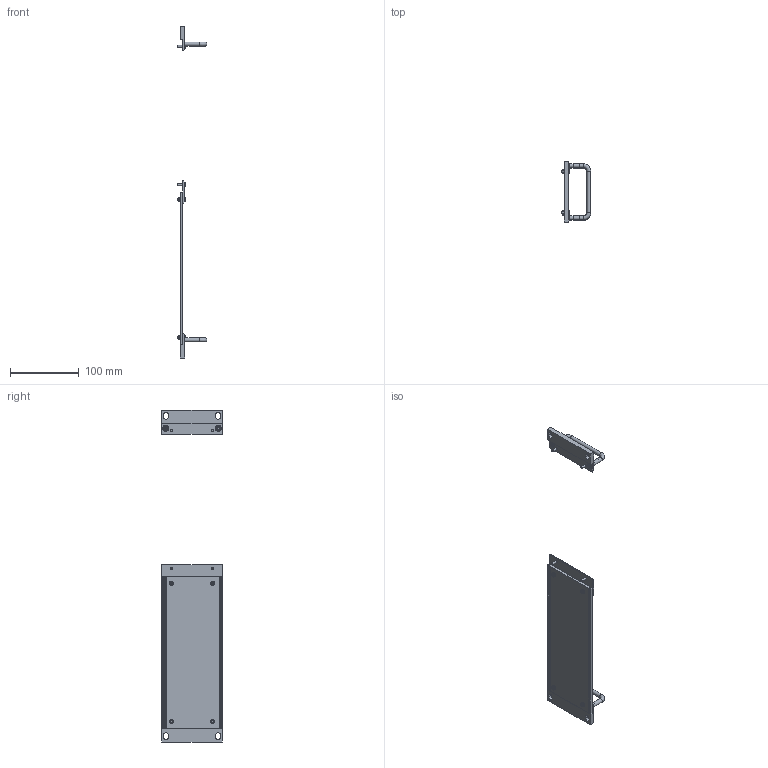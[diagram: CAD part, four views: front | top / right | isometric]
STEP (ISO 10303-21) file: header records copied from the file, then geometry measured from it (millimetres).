
FILE_DESCRIPTION(/* description */ ('DWG2080 connection plate front'),/* implementation_level */ '2;1');
FILE_NAME(/* name */ 'D:\SM800\options\RA19-SM800\RA19-1SM800-parts.stp',/* time_stamp */ '2014-11-20T15:38:21+01:00',/* author */ ('Simon'),/* organization */ ('Delta Elektronika'),/* preprocessor_version */ 'ST-DEVELOPER v15.6',/* originating_system */ 'Autodesk Inventor 2015',/* authorisation */ '');
FILE_SCHEMA (('AUTOMOTIVE_DESIGN { 1 0 10303 214 3 1 1 }'));
Length unit declared in the file: millimetre
Products named in the file (10): dwg2080demo; dwg2111; dwg2081demo; dwg2083demo; m4x10 count t20; m3x10 ro he torx; m3x6; m3x6 din137a; m3; ra19-1sm800
Assembly tree (34 placements, depth 2):
  ra19-1sm800
    dwg2080demo
    dwg2111  x2
    dwg2081demo  x2
    dwg2083demo
    m4x10 count t20  x4
    m3x10 ro he torx  x8
    m3x6  x8
    m3x6 din137a  x4
    m3  x4
Bounding box: 43.3 x 88.1 x 482.5 mm (x, y, z)
Volume: 122264.8 mm3; surface area: 74558.4 mm2
Topology: 34 solids, 34 shells, 576 faces, 1224 edges, 736 vertices
Faces by surface type: plane 349, cylinder 111, cone 84, torus 32
Full cylindrical faces by diameter (mm): 2.459 x4, 3 x16, 3.2 x12, 3.242 x4, 3.5 x12, 4 x8, 4.2 x4, 4.5 x4, 6 x34
Entity records: 4727 total; most frequent: CARTESIAN_POINT 850, DIRECTION 801, ORIENTED_EDGE 630, AXIS2_PLACEMENT_3D 323, EDGE_CURVE 315, EDGE_LOOP 263, VERTEX_POINT 228, FACE_OUTER_BOUND 167
